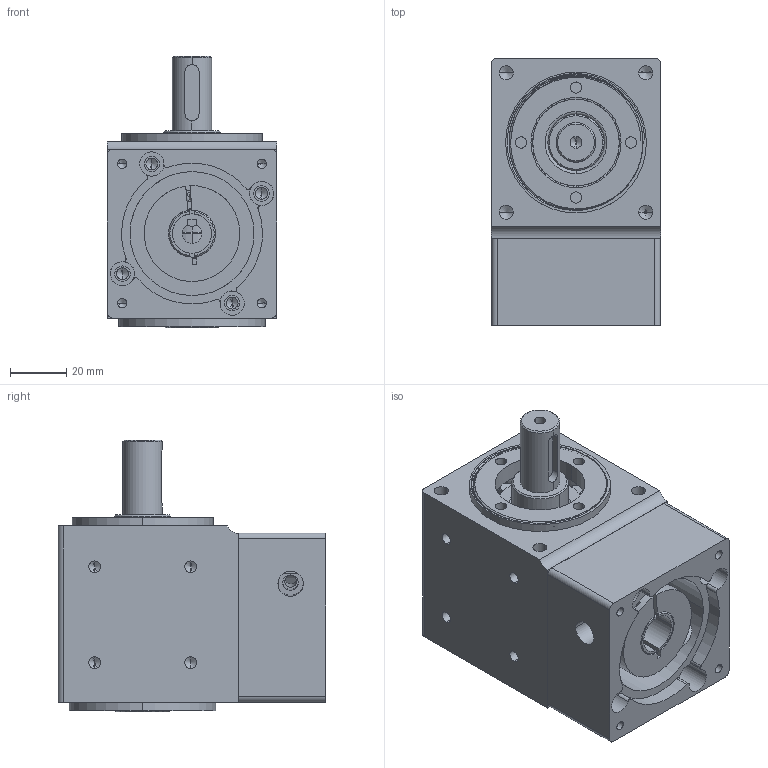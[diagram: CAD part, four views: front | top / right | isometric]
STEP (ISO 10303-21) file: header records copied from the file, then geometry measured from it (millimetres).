
FILE_DESCRIPTION (( 'STEP AP203' ), '1' );
FILE_NAME ('ZH060蚾饜芞.STEP', '2019-09-18T02:12:32', ( 'asus-05' ), ( '' ), 'SwSTEP 2.0', 'SolidWorks 2010', '' );
FILE_SCHEMA (( 'CONFIG_CONTROL_DESIGN' ));
Products named in the file (9): 綴楊擘1; 30204_Rolling bearings 30204 GB 297-94; 6003_Rolling bearings 6003 GB 276-94; ZH060蚾饜芞; 褲极; 標杶; 蹟譫; 怀堤粣; 输入轴
Assembly tree (10 placements, depth 2):
  ZH060蚾饜芞
    6003_Rolling bearings 6003 GB 276-94
    褲极
    输入轴
    蹟譫  x2
    30204_Rolling bearings 30204 GB 297-94  x2
    標杶
    怀堤粣
    綴楊擘1
Bounding box: 60 x 95 x 96.5 mm (x, y, z)
Volume: 260813.9 mm3; surface area: 108074.7 mm2
Topology: 10 solids, 10 shells, 777 faces, 2643 edges, 1702 vertices
Faces by surface type: cylinder 225, torus 198, plane 157, cone 151, sphere 34, bspline 12
Entity records: 32765 total; most frequent: CARTESIAN_POINT 15519, ORIENTED_EDGE 3674, DIRECTION 3258, EDGE_CURVE 1837, AXIS2_PLACEMENT_3D 1435, VERTEX_POINT 1209, CIRCLE 826, EDGE_LOOP 724
